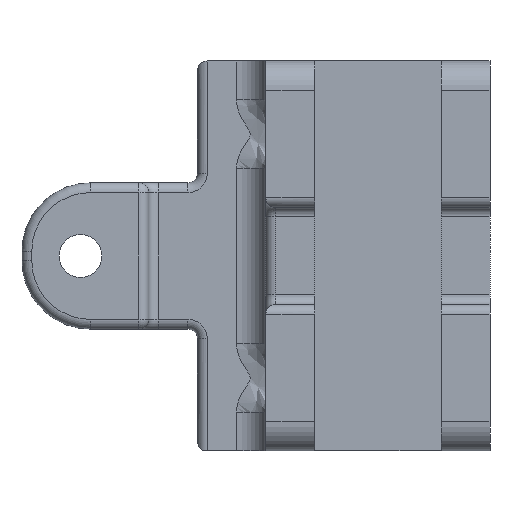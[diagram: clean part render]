
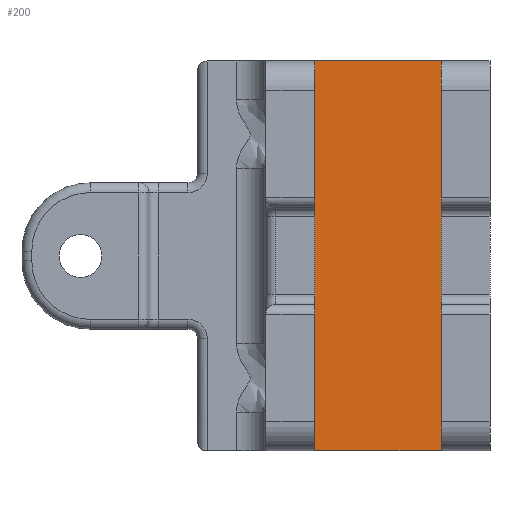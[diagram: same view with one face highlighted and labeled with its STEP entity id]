
A CAD part, left-side view. The second image highlights one B-rep face of the part: STEP entity #200.
In plain terms, the highlighted planar face has unit normal (-1, 0, 0).
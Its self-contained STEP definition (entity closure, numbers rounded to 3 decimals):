
#68 = LINE ( 'NONE', #3252, #381 ) ;
#200 = ADVANCED_FACE ( 'NONE', ( #3066 ), #1623, .F. ) ;
#231 = ORIENTED_EDGE ( 'NONE', *, *, #1745, .F. ) ;
#257 = LINE ( 'NONE', #1455, #682 ) ;
#381 = VECTOR ( 'NONE', #1225, 1000. ) ;
#450 = CARTESIAN_POINT ( 'NONE',  ( 20., 5., -20. ) ) ;
#514 = DIRECTION ( 'NONE',  ( 1., 0., 0. ) ) ;
#628 = VECTOR ( 'NONE', #1838, 1000. ) ;
#639 = VERTEX_POINT ( 'NONE', #450 ) ;
#682 = VECTOR ( 'NONE', #3258, 1000. ) ;
#727 = LINE ( 'NONE', #1901, #628 ) ;
#1010 = CARTESIAN_POINT ( 'NONE',  ( 20., 18., 20. ) ) ;
#1144 = EDGE_LOOP ( 'NONE', ( #2023, #231, #3483, #2913 ) ) ;
#1225 = DIRECTION ( 'NONE',  ( 0., 0., -1. ) ) ;
#1299 = DIRECTION ( 'NONE',  ( 0., -1., 0. ) ) ;
#1332 = DIRECTION ( 'NONE',  ( 0., 1., 0. ) ) ;
#1455 = CARTESIAN_POINT ( 'NONE',  ( 20., 5., 20. ) ) ;
#1508 = AXIS2_PLACEMENT_3D ( 'NONE', #3122, #514, #1332 ) ;
#1531 = VERTEX_POINT ( 'NONE', #1010 ) ;
#1623 = PLANE ( 'NONE',  #1508 ) ;
#1745 = EDGE_CURVE ( 'NONE', #1771, #639, #257, .T. ) ;
#1771 = VERTEX_POINT ( 'NONE', #2669 ) ;
#1838 = DIRECTION ( 'NONE',  ( 0., -1., 0. ) ) ;
#1901 = CARTESIAN_POINT ( 'NONE',  ( 20., 18., -20. ) ) ;
#1997 = VERTEX_POINT ( 'NONE', #3331 ) ;
#2023 = ORIENTED_EDGE ( 'NONE', *, *, #2206, .T. ) ;
#2071 = EDGE_CURVE ( 'NONE', #1531, #1997, #68, .T. ) ;
#2183 = LINE ( 'NONE', #3599, #2710 ) ;
#2206 = EDGE_CURVE ( 'NONE', #1997, #639, #727, .T. ) ;
#2669 = CARTESIAN_POINT ( 'NONE',  ( 20., 5., 20. ) ) ;
#2710 = VECTOR ( 'NONE', #1299, 1000. ) ;
#2913 = ORIENTED_EDGE ( 'NONE', *, *, #2071, .T. ) ;
#3066 = FACE_OUTER_BOUND ( 'NONE', #1144, .T. ) ;
#3122 = CARTESIAN_POINT ( 'NONE',  ( 20., 18., 20. ) ) ;
#3185 = EDGE_CURVE ( 'NONE', #1531, #1771, #2183, .T. ) ;
#3252 = CARTESIAN_POINT ( 'NONE',  ( 20., 18., 20. ) ) ;
#3258 = DIRECTION ( 'NONE',  ( 0., 0., -1. ) ) ;
#3331 = CARTESIAN_POINT ( 'NONE',  ( 20., 18., -20. ) ) ;
#3483 = ORIENTED_EDGE ( 'NONE', *, *, #3185, .F. ) ;
#3599 = CARTESIAN_POINT ( 'NONE',  ( 20., 18., 20. ) ) ;
